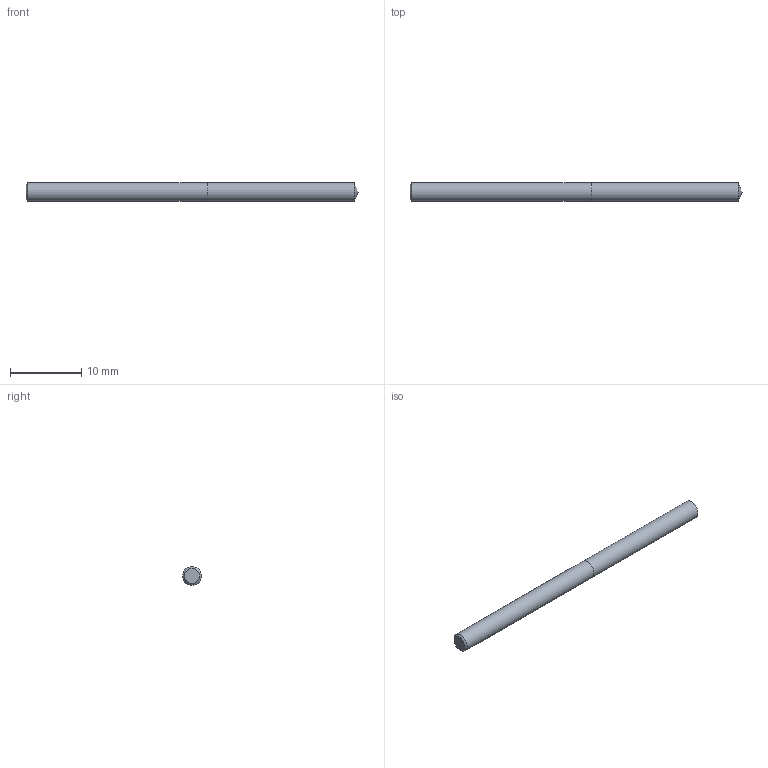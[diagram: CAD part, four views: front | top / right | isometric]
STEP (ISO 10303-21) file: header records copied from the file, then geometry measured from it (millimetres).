
FILE_DESCRIPTION (( 'STEP AP214' ), '1' );
FILE_NAME ('03-2379.STEP', '2022-06-03T06:58:38', ( 'USER' ), ( '' ), 'SwSTEP 2.0', 'SolidWorks 2018', '' );
FILE_SCHEMA (( 'AUTOMOTIVE_DESIGN' ));
Length unit declared in the file: inch
Products named in the file (1): 03-2379
Bounding box: 46.58 x 2.64 x 2.64 mm (x, y, z)
Volume: 253 mm3; surface area: 403.1 mm2
Topology: 2 solids, 2 shells, 7 faces, 11 edges, 7 vertices
Faces by surface type: plane 3, cylinder 2, cone 2
Full cylindrical faces by diameter (mm): 2.642 x2
Entity records: 214 total; most frequent: DIRECTION 26, CARTESIAN_POINT 18, AXIS2_PLACEMENT_3D 13, ORIENTED_EDGE 10, EDGE_LOOP 10, FACE_OUTER_BOUND 9, DIMENSIONAL_EXPONENTS 7, LENGTH_MEASURE_WITH_UNIT 7
